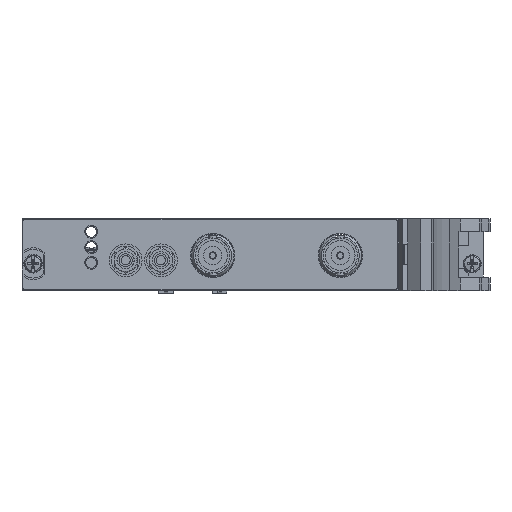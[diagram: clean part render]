
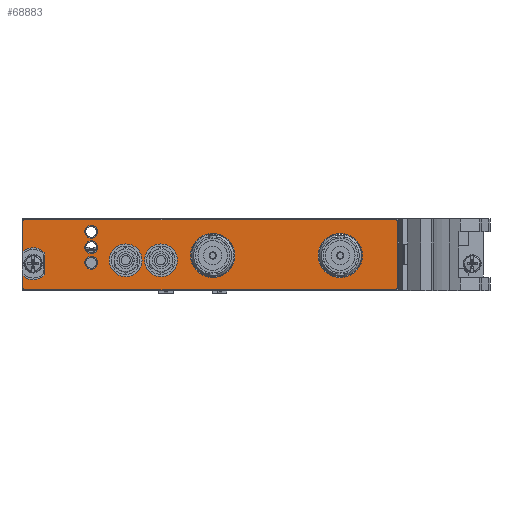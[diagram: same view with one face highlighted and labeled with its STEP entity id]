
A CAD part, left-side view. The second image highlights one B-rep face of the part: STEP entity #68883.
In plain terms, the highlighted planar face has unit normal (-1, 0, 0).
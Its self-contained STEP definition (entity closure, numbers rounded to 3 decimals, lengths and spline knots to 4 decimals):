
#12313=CARTESIAN_POINT('',(-0.2154,0.535,0.665));
#12314=DIRECTION('',(-1.,0.,0.));
#12315=DIRECTION('',(0.,0.,1.));
#12316=AXIS2_PLACEMENT_3D('',#12313,#12314,#12315);
#12318=DIRECTION('',(0.,1.,0.));
#12319=VECTOR('',#12318,4.07);
#12320=CARTESIAN_POINT('',(-0.2154,-3.535,0.685));
#12321=LINE('',#12320,#12319);
#12322=CARTESIAN_POINT('',(-0.2154,-3.535,0.665));
#12323=DIRECTION('',(-1.,0.,0.));
#12324=DIRECTION('',(0.,-1.,0.));
#12325=AXIS2_PLACEMENT_3D('',#12322,#12323,#12324);
#12327=DIRECTION('',(0.,0.,1.));
#12328=VECTOR('',#12327,0.728);
#12329=CARTESIAN_POINT('',(-0.2154,-3.555,-0.063));
#12330=LINE('',#12329,#12328);
#12331=CARTESIAN_POINT('',(-0.2154,-3.535,-0.063));
#12332=DIRECTION('',(-1.,0.,0.));
#12333=DIRECTION('',(0.,0.,-1.));
#12334=AXIS2_PLACEMENT_3D('',#12331,#12332,#12333);
#12336=DIRECTION('',(0.,-1.,0.));
#12337=VECTOR('',#12336,4.07);
#12338=CARTESIAN_POINT('',(-0.2154,0.535,-0.083));
#12339=LINE('',#12338,#12337);
#12340=CARTESIAN_POINT('',(-0.2154,0.535,-0.063));
#12341=DIRECTION('',(-1.,0.,0.));
#12342=DIRECTION('',(0.,1.,0.));
#12343=AXIS2_PLACEMENT_3D('',#12340,#12341,#12342);
#12345=DIRECTION('',(0.,0.,-1.));
#12346=VECTOR('',#12345,0.1295);
#12347=CARTESIAN_POINT('',(-0.2154,0.555,0.0665));
#12348=LINE('',#12347,#12346);
#12349=CARTESIAN_POINT('',(-0.2154,0.443,0.201));
#12350=DIRECTION('',(1.,0.,0.));
#12351=DIRECTION('',(0.,-0.737,-0.676));
#12352=AXIS2_PLACEMENT_3D('',#12349,#12350,#12351);
#12354=DIRECTION('',(0.,0.,-1.));
#12355=VECTOR('',#12354,0.2365);
#12356=CARTESIAN_POINT('',(-0.2154,0.314,0.3193));
#12357=LINE('',#12356,#12355);
#12358=CARTESIAN_POINT('',(-0.2154,0.443,0.201));
#12359=DIRECTION('',(1.,0.,0.));
#12360=DIRECTION('',(0.,0.64,0.768));
#12361=AXIS2_PLACEMENT_3D('',#12358,#12359,#12360);
#12363=DIRECTION('',(0.,0.,-1.));
#12364=VECTOR('',#12363,0.3295);
#12365=CARTESIAN_POINT('',(-0.2154,0.555,0.665));
#12366=LINE('',#12365,#12364);
#12367=CARTESIAN_POINT('',(-0.2154,-0.194,0.552));
#12368=DIRECTION('',(-1.,0.,0.));
#12369=DIRECTION('',(0.,-1.,0.));
#12370=AXIS2_PLACEMENT_3D('',#12367,#12368,#12369);
#12372=CARTESIAN_POINT('',(-0.2154,-0.194,0.552));
#12373=DIRECTION('',(-1.,0.,0.));
#12374=DIRECTION('',(0.,1.,0.));
#12375=AXIS2_PLACEMENT_3D('',#12372,#12373,#12374);
#12377=CARTESIAN_POINT('',(-0.2154,-0.194,0.382));
#12378=DIRECTION('',(-1.,0.,0.));
#12379=DIRECTION('',(0.,-1.,0.));
#12380=AXIS2_PLACEMENT_3D('',#12377,#12378,#12379);
#12382=CARTESIAN_POINT('',(-0.2154,-0.194,0.382));
#12383=DIRECTION('',(-1.,0.,0.));
#12384=DIRECTION('',(0.,1.,0.));
#12385=AXIS2_PLACEMENT_3D('',#12382,#12383,#12384);
#12387=CARTESIAN_POINT('',(-0.2154,-0.194,0.212));
#12388=DIRECTION('',(-1.,0.,0.));
#12389=DIRECTION('',(0.,-1.,0.));
#12390=AXIS2_PLACEMENT_3D('',#12387,#12388,#12389);
#12392=CARTESIAN_POINT('',(-0.2154,-0.194,0.212));
#12393=DIRECTION('',(-1.,0.,0.));
#12394=DIRECTION('',(0.,1.,0.));
#12395=AXIS2_PLACEMENT_3D('',#12392,#12393,#12394);
#12397=CARTESIAN_POINT('',(-0.2154,-1.529,0.292));
#12398=DIRECTION('',(-1.,0.,0.));
#12399=DIRECTION('',(0.,0.,1.));
#12400=AXIS2_PLACEMENT_3D('',#12397,#12398,#12399);
#12402=CARTESIAN_POINT('',(-0.2154,-1.529,0.292));
#12403=DIRECTION('',(-1.,0.,0.));
#12404=DIRECTION('',(0.,0.,-1.));
#12405=AXIS2_PLACEMENT_3D('',#12402,#12403,#12404);
#12407=CARTESIAN_POINT('',(-0.2154,-2.929,0.2915));
#12408=DIRECTION('',(-1.,0.,0.));
#12409=DIRECTION('',(0.,0.,1.));
#12410=AXIS2_PLACEMENT_3D('',#12407,#12408,#12409);
#12412=CARTESIAN_POINT('',(-0.2154,-2.929,0.2915));
#12413=DIRECTION('',(-1.,0.,0.));
#12414=DIRECTION('',(0.,0.,-1.));
#12415=AXIS2_PLACEMENT_3D('',#12412,#12413,#12414);
#12417=CARTESIAN_POINT('',(-0.2154,-0.96,0.239));
#12418=DIRECTION('',(-1.,0.,0.));
#12419=DIRECTION('',(0.,0.,-1.));
#12420=AXIS2_PLACEMENT_3D('',#12417,#12418,#12419);
#12422=CARTESIAN_POINT('',(-0.2154,-0.96,0.239));
#12423=DIRECTION('',(-1.,0.,0.));
#12424=DIRECTION('',(0.,0.,1.));
#12425=AXIS2_PLACEMENT_3D('',#12422,#12423,#12424);
#12427=CARTESIAN_POINT('',(-0.2154,-0.573,0.239));
#12428=DIRECTION('',(-1.,0.,0.));
#12429=DIRECTION('',(0.,0.,-1.));
#12430=AXIS2_PLACEMENT_3D('',#12427,#12428,#12429);
#12432=CARTESIAN_POINT('',(-0.2154,-0.573,0.239));
#12433=DIRECTION('',(-1.,0.,0.));
#12434=DIRECTION('',(0.,0.,1.));
#12435=AXIS2_PLACEMENT_3D('',#12432,#12433,#12434);
#47878=CARTESIAN_POINT('',(-0.2154,0.535,0.685));
#47879=CARTESIAN_POINT('',(-0.2154,0.555,0.665));
#47880=VERTEX_POINT('',#47878);
#47881=VERTEX_POINT('',#47879);
#47882=CARTESIAN_POINT('',(-0.2154,0.555,0.3355));
#47883=VERTEX_POINT('',#47882);
#47884=CARTESIAN_POINT('',(-0.2154,0.314,0.3193));
#47885=VERTEX_POINT('',#47884);
#47886=CARTESIAN_POINT('',(-0.2154,0.314,0.0827));
#47887=VERTEX_POINT('',#47886);
#47888=CARTESIAN_POINT('',(-0.2154,0.555,0.0665));
#47889=VERTEX_POINT('',#47888);
#47890=CARTESIAN_POINT('',(-0.2154,0.555,-0.063));
#47891=VERTEX_POINT('',#47890);
#47892=CARTESIAN_POINT('',(-0.2154,0.535,-0.083));
#47893=VERTEX_POINT('',#47892);
#47894=CARTESIAN_POINT('',(-0.2154,-3.535,-0.083));
#47895=VERTEX_POINT('',#47894);
#47896=CARTESIAN_POINT('',(-0.2154,-3.555,-0.063));
#47897=VERTEX_POINT('',#47896);
#47898=CARTESIAN_POINT('',(-0.2154,-3.555,0.665));
#47899=VERTEX_POINT('',#47898);
#47900=CARTESIAN_POINT('',(-0.2154,-3.535,0.685));
#47901=VERTEX_POINT('',#47900);
#47902=CARTESIAN_POINT('',(-0.2154,-0.264,0.552));
#47903=CARTESIAN_POINT('',(-0.2154,-0.124,0.552));
#47904=VERTEX_POINT('',#47902);
#47905=VERTEX_POINT('',#47903);
#47906=CARTESIAN_POINT('',(-0.2154,-0.264,0.382));
#47907=CARTESIAN_POINT('',(-0.2154,-0.124,0.382));
#47908=VERTEX_POINT('',#47906);
#47909=VERTEX_POINT('',#47907);
#47910=CARTESIAN_POINT('',(-0.2154,-0.264,0.212));
#47911=CARTESIAN_POINT('',(-0.2154,-0.124,0.212));
#47912=VERTEX_POINT('',#47910);
#47913=VERTEX_POINT('',#47911);
#47914=CARTESIAN_POINT('',(-0.2154,-1.529,0.5345));
#47915=CARTESIAN_POINT('',(-0.2154,-1.529,0.0495));
#47916=VERTEX_POINT('',#47914);
#47917=VERTEX_POINT('',#47915);
#47918=CARTESIAN_POINT('',(-0.2154,-2.929,0.534));
#47919=CARTESIAN_POINT('',(-0.2154,-2.929,0.049));
#47920=VERTEX_POINT('',#47918);
#47921=VERTEX_POINT('',#47919);
#47922=CARTESIAN_POINT('',(-0.2154,-0.96,0.059));
#47923=CARTESIAN_POINT('',(-0.2154,-0.96,0.419));
#47924=VERTEX_POINT('',#47922);
#47925=VERTEX_POINT('',#47923);
#47926=CARTESIAN_POINT('',(-0.2154,-0.573,0.059));
#47927=CARTESIAN_POINT('',(-0.2154,-0.573,0.419));
#47928=VERTEX_POINT('',#47926);
#47929=VERTEX_POINT('',#47927);
#68822=CARTESIAN_POINT('',(-0.2154,0.443,0.201));
#68823=DIRECTION('',(-1.,0.,0.));
#68824=DIRECTION('',(0.,0.,1.));
#68825=AXIS2_PLACEMENT_3D('',#68822,#68823,#68824);
#68826=PLANE('',#68825);
#68827=ORIENTED_EDGE('',*,*,#68662,.F.);
#68828=ORIENTED_EDGE('',*,*,#68677,.F.);
#68829=ORIENTED_EDGE('',*,*,#68691,.F.);
#68830=ORIENTED_EDGE('',*,*,#68705,.F.);
#68831=ORIENTED_EDGE('',*,*,#68719,.F.);
#68832=ORIENTED_EDGE('',*,*,#68733,.F.);
#68833=ORIENTED_EDGE('',*,*,#68747,.F.);
#68834=ORIENTED_EDGE('',*,*,#68761,.F.);
#68835=ORIENTED_EDGE('',*,*,#68775,.F.);
#68836=ORIENTED_EDGE('',*,*,#68789,.F.);
#68837=ORIENTED_EDGE('',*,*,#68803,.F.);
#68838=ORIENTED_EDGE('',*,*,#68816,.F.);
#68839=EDGE_LOOP('',(#68827,#68828,#68829,#68830,#68831,#68832,#68833,#68834,
#68835,#68836,#68837,#68838));
#68840=FACE_OUTER_BOUND('',#68839,.F.);
#68842=ORIENTED_EDGE('',*,*,#68841,.T.);
#68844=ORIENTED_EDGE('',*,*,#68843,.T.);
#68845=EDGE_LOOP('',(#68842,#68844));
#68846=FACE_BOUND('',#68845,.F.);
#68848=ORIENTED_EDGE('',*,*,#68847,.T.);
#68850=ORIENTED_EDGE('',*,*,#68849,.T.);
#68851=EDGE_LOOP('',(#68848,#68850));
#68852=FACE_BOUND('',#68851,.F.);
#68854=ORIENTED_EDGE('',*,*,#68853,.T.);
#68856=ORIENTED_EDGE('',*,*,#68855,.T.);
#68857=EDGE_LOOP('',(#68854,#68856));
#68858=FACE_BOUND('',#68857,.F.);
#68860=ORIENTED_EDGE('',*,*,#68859,.T.);
#68862=ORIENTED_EDGE('',*,*,#68861,.T.);
#68863=EDGE_LOOP('',(#68860,#68862));
#68864=FACE_BOUND('',#68863,.F.);
#68866=ORIENTED_EDGE('',*,*,#68865,.T.);
#68868=ORIENTED_EDGE('',*,*,#68867,.T.);
#68869=EDGE_LOOP('',(#68866,#68868));
#68870=FACE_BOUND('',#68869,.F.);
#68872=ORIENTED_EDGE('',*,*,#68871,.T.);
#68874=ORIENTED_EDGE('',*,*,#68873,.T.);
#68875=EDGE_LOOP('',(#68872,#68874));
#68876=FACE_BOUND('',#68875,.F.);
#68878=ORIENTED_EDGE('',*,*,#68877,.T.);
#68880=ORIENTED_EDGE('',*,*,#68879,.T.);
#68881=EDGE_LOOP('',(#68878,#68880));
#68882=FACE_BOUND('',#68881,.F.);
#68883=ADVANCED_FACE('',(#68840,#68846,#68852,#68858,#68864,#68870,#68876,
#68882),#68826,.T.);
#12317=CIRCLE('',#12316,0.02);
#12326=CIRCLE('',#12325,0.02);
#12335=CIRCLE('',#12334,0.02);
#12344=CIRCLE('',#12343,0.02);
#12353=CIRCLE('',#12352,0.175);
#12362=CIRCLE('',#12361,0.175);
#12371=CIRCLE('',#12370,0.07);
#12376=CIRCLE('',#12375,0.07);
#12381=CIRCLE('',#12380,0.07);
#12386=CIRCLE('',#12385,0.07);
#12391=CIRCLE('',#12390,0.07);
#12396=CIRCLE('',#12395,0.07);
#12401=CIRCLE('',#12400,0.2425);
#12406=CIRCLE('',#12405,0.2425);
#12411=CIRCLE('',#12410,0.2425);
#12416=CIRCLE('',#12415,0.2425);
#12421=CIRCLE('',#12420,0.18);
#12426=CIRCLE('',#12425,0.18);
#12431=CIRCLE('',#12430,0.18);
#12436=CIRCLE('',#12435,0.18);
#68662=EDGE_CURVE('',#47880,#47881,#12317,.T.);
#68677=EDGE_CURVE('',#47901,#47880,#12321,.T.);
#68691=EDGE_CURVE('',#47899,#47901,#12326,.T.);
#68705=EDGE_CURVE('',#47897,#47899,#12330,.T.);
#68719=EDGE_CURVE('',#47895,#47897,#12335,.T.);
#68733=EDGE_CURVE('',#47893,#47895,#12339,.T.);
#68747=EDGE_CURVE('',#47891,#47893,#12344,.T.);
#68761=EDGE_CURVE('',#47889,#47891,#12348,.T.);
#68775=EDGE_CURVE('',#47887,#47889,#12353,.T.);
#68789=EDGE_CURVE('',#47885,#47887,#12357,.T.);
#68803=EDGE_CURVE('',#47883,#47885,#12362,.T.);
#68816=EDGE_CURVE('',#47881,#47883,#12366,.T.);
#68841=EDGE_CURVE('',#47904,#47905,#12371,.T.);
#68843=EDGE_CURVE('',#47905,#47904,#12376,.T.);
#68847=EDGE_CURVE('',#47908,#47909,#12381,.T.);
#68849=EDGE_CURVE('',#47909,#47908,#12386,.T.);
#68853=EDGE_CURVE('',#47912,#47913,#12391,.T.);
#68855=EDGE_CURVE('',#47913,#47912,#12396,.T.);
#68859=EDGE_CURVE('',#47916,#47917,#12401,.T.);
#68861=EDGE_CURVE('',#47917,#47916,#12406,.T.);
#68865=EDGE_CURVE('',#47920,#47921,#12411,.T.);
#68867=EDGE_CURVE('',#47921,#47920,#12416,.T.);
#68871=EDGE_CURVE('',#47924,#47925,#12421,.T.);
#68873=EDGE_CURVE('',#47925,#47924,#12426,.T.);
#68877=EDGE_CURVE('',#47928,#47929,#12431,.T.);
#68879=EDGE_CURVE('',#47929,#47928,#12436,.T.);
